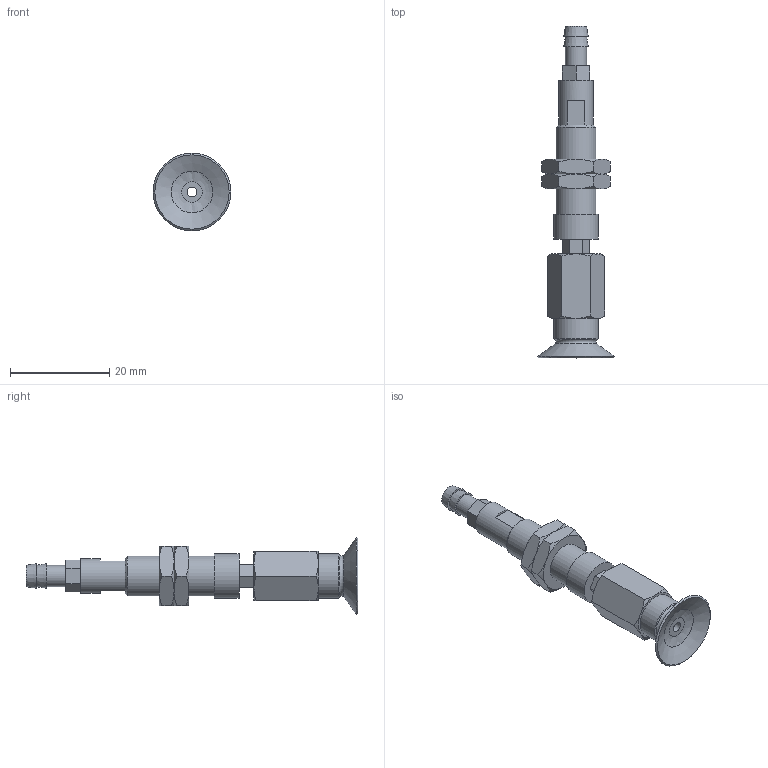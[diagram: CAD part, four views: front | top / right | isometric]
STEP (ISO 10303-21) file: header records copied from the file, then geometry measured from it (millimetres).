
FILE_DESCRIPTION(('STEP AP203'),'1');
FILE_NAME('-T.stp','2025-08-27T03:12:55',(' '),(' '),'Spatial InterOp 3D',' ',' ');
FILE_SCHEMA(('CONFIG_CONTROL_DESIGN'));
Length unit declared in the file: millimetre
Products named in the file (7): BNABPFTH-15A-3-※-T; ADAPTER; NAPATH-10A-3--M; Nut-15A-3-h; NAPFTH-15A-3-FBODY; BPFG-15A-※; T
Assembly tree (7 placements, depth 2):
  BNABPFTH-15A-3-※-T
    ADAPTER
    NAPATH-10A-3--M
    Nut-15A-3-h  x2
    NAPFTH-15A-3-FBODY
    BPFG-15A-※
    T
Bounding box: 15.7 x 67 x 15.7 mm (x, y, z)
Volume: 3673.4 mm3; surface area: 4578.8 mm2
Topology: 7 solids, 7 shells, 141 faces, 300 edges, 184 vertices
Faces by surface type: plane 65, cone 49, cylinder 17, torus 9, bspline 1
Full cylindrical faces by diameter (mm): 2 x3, 3 x1, 4 x2, 4.134 x1, 4.3 x1, 5 x1, 6 x2, 7 x1, 7.188 x2, 8 x1, 9 x2
Entity records: 3485 total; most frequent: CARTESIAN_POINT 795, DIRECTION 490, ORIENTED_EDGE 412, AXIS2_PLACEMENT_3D 207, EDGE_CURVE 206, EDGE_LOOP 178, VERTEX_POINT 148, FACE_OUTER_BOUND 144
